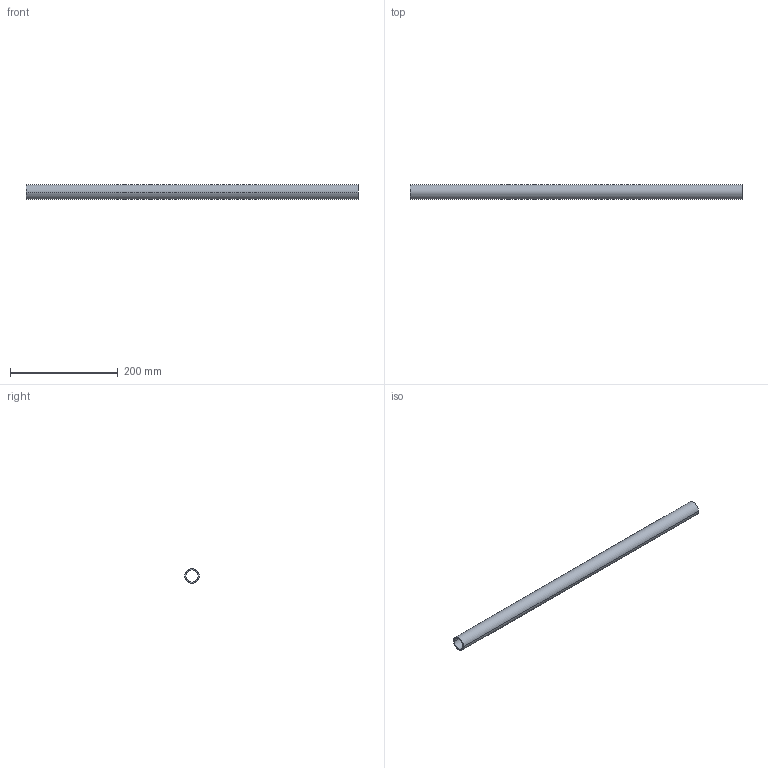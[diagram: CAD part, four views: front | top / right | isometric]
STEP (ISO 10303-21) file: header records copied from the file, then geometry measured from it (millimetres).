
FILE_DESCRIPTION (( 'STEP AP214' ), '1' );
FILE_NAME ('CCJ029-REP.358 - LISSE PLATEFORME INTERMEDIAIRE FILE 4.STEP', '2025-11-04T10:53:59', ( '' ), ( '' ), 'SwSTEP 2.0', 'SolidWorks 2021', '' );
FILE_SCHEMA (( 'AUTOMOTIVE_DESIGN' ));
Length unit declared in the file: millimetre
Products named in the file (1): CCJ029-REP.358 - LISSE PLATEFORME INTERMEDIAIRE FILE 4
Bounding box: 615 x 26.9 x 26.9 mm (x, y, z)
Volume: 109317.1 mm3; surface area: 95413.8 mm2
Topology: 1 solids, 1 shells, 6 faces, 12 edges, 8 vertices
Faces by surface type: cylinder 4, plane 2
Entity records: 202 total; most frequent: DIRECTION 34, CARTESIAN_POINT 27, ORIENTED_EDGE 24, AXIS2_PLACEMENT_3D 15, EDGE_CURVE 12, VERTEX_POINT 8, EDGE_LOOP 8, CIRCLE 8
